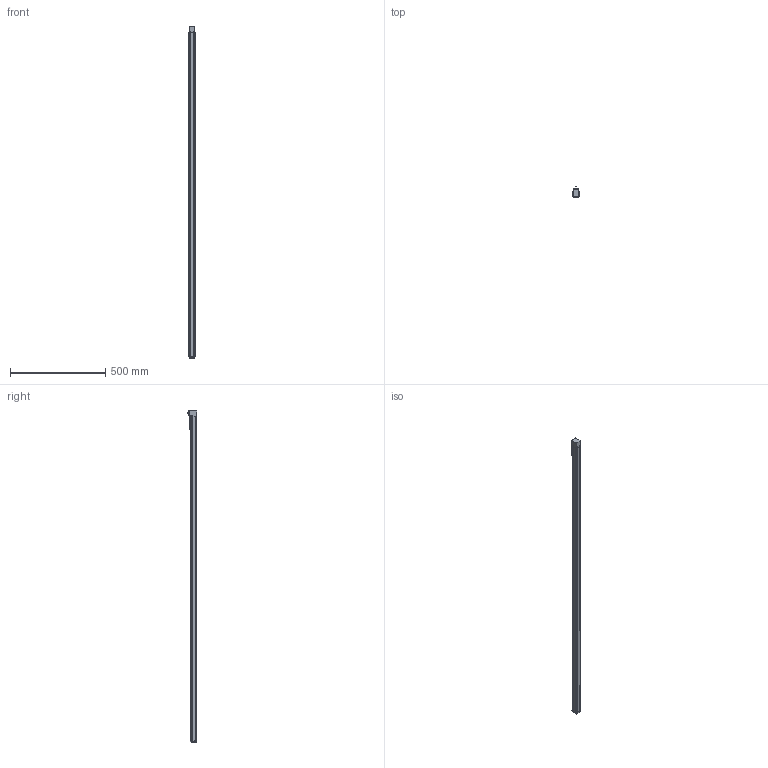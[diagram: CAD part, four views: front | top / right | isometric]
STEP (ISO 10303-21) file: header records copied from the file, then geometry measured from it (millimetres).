
FILE_DESCRIPTION(/* description */ ('STEP AP214'),/* implementation_level */ '2;1');
FILE_NAME(/* name */ 'MGTB 32 1600(0)',/* time_stamp */ '2023-04-17T13:35:54+02:00',/* author */ ('License CC BY-ND 4.0'),/* organization */ ('CADENAS'),/* preprocessor_version */ 'ST-DEVELOPER v19.3',/* originating_system */ 'PARTsolutions',/* authorisation */ ' ');
FILE_SCHEMA (('AUTOMOTIVE_DESIGN {1 0 10303 214 3 1 1}'));
Length unit declared in the file: millimetre
Products named in the file (6): MGTB 32 1600(0); MGTB 32 1600_protection_strip; MGTB 32_carriage; MGTB 32_end_block; MGTB 32 1600_profile; MGTB 32_drive_block
Assembly tree (5 placements, depth 2):
  MGTB 32 1600(0)
    MGTB 32 1600_protection_strip
    MGTB 32_carriage
    MGTB 32_end_block
    MGTB 32 1600_profile
    MGTB 32_drive_block
Bounding box: 32 x 51.75 x 1744.75 mm (x, y, z)
Volume: 1632833.6 mm3; surface area: 385262.9 mm2
Topology: 5 solids, 5 shells, 664 faces, 1755 edges, 1129 vertices
Faces by surface type: plane 316, cylinder 171, cone 90, bspline 60, torus 25, sphere 2
Full cylindrical faces by diameter (mm): 1.155 x1, 1.567 x4, 1.755 x4, 1.8 x2, 2 x2, 2.3 x4, 2.459 x8, 2.46 x4, 2.5 x11, 3 x1, 3.8 x4, 4.5 x4, 5 x3, 7 x1, 7.5 x1, 9.6 x1, 19.5 x1, 25 x2
Entity records: 24513 total; most frequent: CARTESIAN_POINT 4239, DIRECTION 3359, ORIENTED_EDGE 3170, EDGE_CURVE 1585, AXIS2_PLACEMENT_3D 1204, VERTEX_POINT 1116, LINE 951, VECTOR 951
